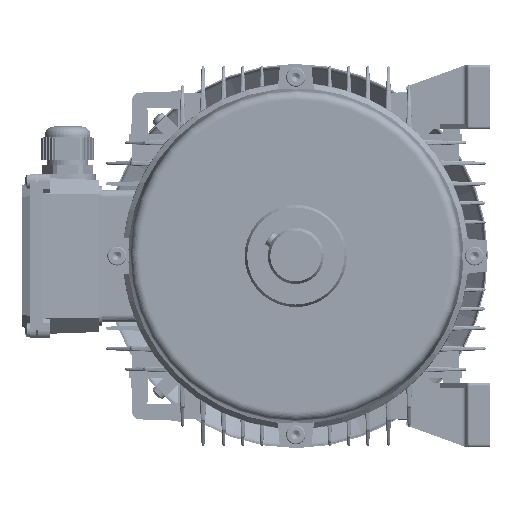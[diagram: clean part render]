
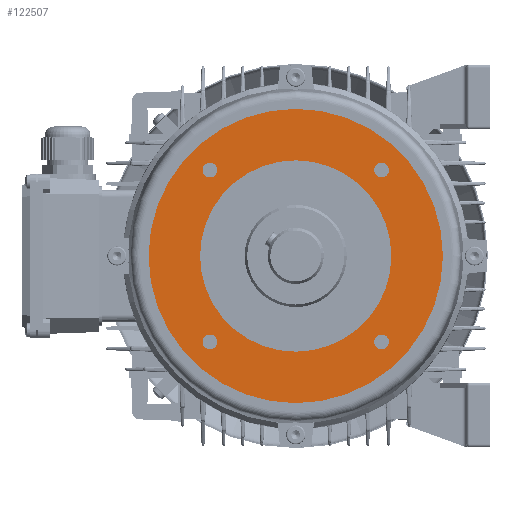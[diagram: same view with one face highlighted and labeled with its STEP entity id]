
A CAD part, left-side view. The second image highlights one B-rep face of the part: STEP entity #122507.
In plain terms, the highlighted planar face has unit normal (-1, 0, 0).
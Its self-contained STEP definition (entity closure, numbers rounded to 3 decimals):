
#1812 = FACE_BOUND ( 'NONE', #11258, .T. ) ;
#1910 = DIRECTION ( 'NONE',  ( 0., 0., -1. ) ) ;
#5064 = DIRECTION ( 'NONE',  ( 1., 0., 0. ) ) ;
#5218 = ORIENTED_EDGE ( 'NONE', *, *, #24922, .T. ) ;
#6644 = FACE_OUTER_BOUND ( 'NONE', #155947, .T. ) ;
#9139 = CARTESIAN_POINT ( 'NONE',  ( 3.5, 58.336, -58.336 ) ) ;
#10251 = ORIENTED_EDGE ( 'NONE', *, *, #99066, .T. ) ;
#10293 = DIRECTION ( 'NONE',  ( 0., 0., -1. ) ) ;
#11258 = EDGE_LOOP ( 'NONE', ( #60691, #46675 ) ) ;
#12870 = EDGE_CURVE ( 'NONE', #167520, #121306, #24170, .T. ) ;
#14092 = AXIS2_PLACEMENT_3D ( 'NONE', #123677, #81432, #62542 ) ;
#16080 = EDGE_CURVE ( 'NONE', #97850, #149481, #97177, .T. ) ;
#16223 = DIRECTION ( 'NONE',  ( 0., 0., -1. ) ) ;
#17737 = CARTESIAN_POINT ( 'NONE',  ( 3.5, -58.336, -53.336 ) ) ;
#20904 = DIRECTION ( 'NONE',  ( 1., 0., 0. ) ) ;
#22810 = VERTEX_POINT ( 'NONE', #142451 ) ;
#23322 = CARTESIAN_POINT ( 'NONE',  ( 3.5, 0., 0. ) ) ;
#23428 = AXIS2_PLACEMENT_3D ( 'NONE', #48113, #29215, #10293 ) ;
#24009 = CARTESIAN_POINT ( 'NONE',  ( 3.5, 58.336, 58.336 ) ) ;
#24170 = CIRCLE ( 'NONE', #42457, 65. ) ;
#24922 = EDGE_CURVE ( 'NONE', #155399, #42728, #33367, .T. ) ;
#25699 = DIRECTION ( 'NONE',  ( 0., 0., 1. ) ) ;
#28310 = CARTESIAN_POINT ( 'NONE',  ( 3.5, 58.336, 63.336 ) ) ;
#29215 = DIRECTION ( 'NONE',  ( 1., 0., 0. ) ) ;
#31867 = DIRECTION ( 'NONE',  ( 0., 0., -1. ) ) ;
#31952 = DIRECTION ( 'NONE',  ( 0., 0., 1. ) ) ;
#32727 = CIRCLE ( 'NONE', #14092, 5. ) ;
#33075 = EDGE_LOOP ( 'NONE', ( #10251, #54703 ) ) ;
#33367 = CIRCLE ( 'NONE', #87183, 5. ) ;
#35169 = DIRECTION ( 'NONE',  ( 1., 0., 0. ) ) ;
#36276 = ORIENTED_EDGE ( 'NONE', *, *, #145850, .T. ) ;
#36584 = CARTESIAN_POINT ( 'NONE',  ( 3.5, -58.336, 63.336 ) ) ;
#36988 = ORIENTED_EDGE ( 'NONE', *, *, #175364, .T. ) ;
#39785 = CARTESIAN_POINT ( 'NONE',  ( 3.5, -58.336, -58.336 ) ) ;
#40040 = CIRCLE ( 'NONE', #23428, 5. ) ;
#40218 = CIRCLE ( 'NONE', #110919, 65. ) ;
#41844 = DIRECTION ( 'NONE',  ( 0., 0., -1. ) ) ;
#42457 = AXIS2_PLACEMENT_3D ( 'NONE', #23322, #169879, #151005 ) ;
#42728 = VERTEX_POINT ( 'NONE', #28310 ) ;
#44553 = DIRECTION ( 'NONE',  ( -1., 0., 0. ) ) ;
#44596 = VERTEX_POINT ( 'NONE', #36584 ) ;
#44716 = AXIS2_PLACEMENT_3D ( 'NONE', #79629, #60737, #41844 ) ;
#46675 = ORIENTED_EDGE ( 'NONE', *, *, #12870, .F. ) ;
#47808 = EDGE_CURVE ( 'NONE', #121306, #167520, #40218, .T. ) ;
#48113 = CARTESIAN_POINT ( 'NONE',  ( 3.5, -58.336, 58.336 ) ) ;
#50714 = DIRECTION ( 'NONE',  ( 1., 0., 0. ) ) ;
#50815 = DIRECTION ( 'NONE',  ( -1., 0., 0. ) ) ;
#54001 = CARTESIAN_POINT ( 'NONE',  ( 3.5, 58.336, -58.336 ) ) ;
#54703 = ORIENTED_EDGE ( 'NONE', *, *, #76491, .T. ) ;
#55581 = AXIS2_PLACEMENT_3D ( 'NONE', #39785, #20904, #1910 ) ;
#60691 = ORIENTED_EDGE ( 'NONE', *, *, #47808, .F. ) ;
#60737 = DIRECTION ( 'NONE',  ( 1., 0., 0. ) ) ;
#62542 = DIRECTION ( 'NONE',  ( 0., 0., -1. ) ) ;
#63449 = CARTESIAN_POINT ( 'NONE',  ( 3.5, 0., 0. ) ) ;
#64844 = AXIS2_PLACEMENT_3D ( 'NONE', #54001, #35169, #16223 ) ;
#67483 = CIRCLE ( 'NONE', #177936, 100. ) ;
#69579 = CARTESIAN_POINT ( 'NONE',  ( 3.5, -58.336, -58.336 ) ) ;
#69666 = CARTESIAN_POINT ( 'NONE',  ( 3.5, 0., 0. ) ) ;
#70379 = CARTESIAN_POINT ( 'NONE',  ( 3.5, 0., -100. ) ) ;
#74285 = CARTESIAN_POINT ( 'NONE',  ( 3.5, 0., -65. ) ) ;
#76491 = EDGE_CURVE ( 'NONE', #44596, #178519, #32727, .T. ) ;
#79629 = CARTESIAN_POINT ( 'NONE',  ( 3.5, 58.336, 58.336 ) ) ;
#81432 = DIRECTION ( 'NONE',  ( 1., 0., 0. ) ) ;
#83739 = ORIENTED_EDGE ( 'NONE', *, *, #89832, .T. ) ;
#87183 = AXIS2_PLACEMENT_3D ( 'NONE', #24009, #5064, #170551 ) ;
#88162 = EDGE_LOOP ( 'NONE', ( #119007, #83739 ) ) ;
#89832 = EDGE_CURVE ( 'NONE', #103287, #22810, #143291, .T. ) ;
#92685 = DIRECTION ( 'NONE',  ( 0., 0., 1. ) ) ;
#93627 = CIRCLE ( 'NONE', #130062, 5. ) ;
#95015 = ORIENTED_EDGE ( 'NONE', *, *, #16080, .T. ) ;
#95129 = CIRCLE ( 'NONE', #113389, 5. ) ;
#95158 = EDGE_LOOP ( 'NONE', ( #36276, #95015 ) ) ;
#96634 = ORIENTED_EDGE ( 'NONE', *, *, #138043, .T. ) ;
#97177 = CIRCLE ( 'NONE', #64844, 5. ) ;
#97850 = VERTEX_POINT ( 'NONE', #112268 ) ;
#99066 = EDGE_CURVE ( 'NONE', #178519, #44596, #40040, .T. ) ;
#103287 = VERTEX_POINT ( 'NONE', #17737 ) ;
#106811 = ORIENTED_EDGE ( 'NONE', *, *, #122548, .T. ) ;
#107421 = DIRECTION ( 'NONE',  ( 0., 0., -1. ) ) ;
#108649 = VERTEX_POINT ( 'NONE', #70379 ) ;
#110919 = AXIS2_PLACEMENT_3D ( 'NONE', #63449, #44553, #25699 ) ;
#111585 = DIRECTION ( 'NONE',  ( -1., 0., 0. ) ) ;
#112268 = CARTESIAN_POINT ( 'NONE',  ( 3.5, 58.336, -53.336 ) ) ;
#113389 = AXIS2_PLACEMENT_3D ( 'NONE', #9139, #174661, #155771 ) ;
#116577 = CIRCLE ( 'NONE', #44716, 5. ) ;
#119007 = ORIENTED_EDGE ( 'NONE', *, *, #129623, .T. ) ;
#121306 = VERTEX_POINT ( 'NONE', #147982 ) ;
#122507 = ADVANCED_FACE ( 'NONE', ( #148184, #157720, #167223, #176767, #1812, #6644 ), #164064, .F. ) ;
#122548 = EDGE_CURVE ( 'NONE', #42728, #155399, #116577, .T. ) ;
#123677 = CARTESIAN_POINT ( 'NONE',  ( 3.5, -58.336, 58.336 ) ) ;
#126292 = DIRECTION ( 'NONE',  ( 1., 0., 0. ) ) ;
#129623 = EDGE_CURVE ( 'NONE', #22810, #103287, #93627, .T. ) ;
#130062 = AXIS2_PLACEMENT_3D ( 'NONE', #69579, #50714, #31867 ) ;
#137703 = VERTEX_POINT ( 'NONE', #148751 ) ;
#138043 = EDGE_CURVE ( 'NONE', #137703, #108649, #159541, .T. ) ;
#139602 = AXIS2_PLACEMENT_3D ( 'NONE', #69666, #50815, #31952 ) ;
#142451 = CARTESIAN_POINT ( 'NONE',  ( 3.5, -58.336, -63.336 ) ) ;
#143291 = CIRCLE ( 'NONE', #55581, 5. ) ;
#145163 = CARTESIAN_POINT ( 'NONE',  ( 3.5, 65., 0. ) ) ;
#145850 = EDGE_CURVE ( 'NONE', #149481, #97850, #95129, .T. ) ;
#147982 = CARTESIAN_POINT ( 'NONE',  ( 3.5, 0., 65. ) ) ;
#148184 = FACE_BOUND ( 'NONE', #33075, .T. ) ;
#148751 = CARTESIAN_POINT ( 'NONE',  ( 3.5, 0., 100. ) ) ;
#149339 = CARTESIAN_POINT ( 'NONE',  ( 3.5, 0., 0. ) ) ;
#149481 = VERTEX_POINT ( 'NONE', #181410 ) ;
#151005 = DIRECTION ( 'NONE',  ( 0., 0., 1. ) ) ;
#152238 = CARTESIAN_POINT ( 'NONE',  ( 3.5, -58.336, 53.336 ) ) ;
#155399 = VERTEX_POINT ( 'NONE', #174351 ) ;
#155771 = DIRECTION ( 'NONE',  ( 0., 0., -1. ) ) ;
#155947 = EDGE_LOOP ( 'NONE', ( #96634, #36988 ) ) ;
#157720 = FACE_BOUND ( 'NONE', #88162, .T. ) ;
#159541 = CIRCLE ( 'NONE', #139602, 100. ) ;
#162486 = AXIS2_PLACEMENT_3D ( 'NONE', #145163, #126292, #107421 ) ;
#164048 = EDGE_LOOP ( 'NONE', ( #5218, #106811 ) ) ;
#164064 = PLANE ( 'NONE',  #162486 ) ;
#167223 = FACE_BOUND ( 'NONE', #95158, .T. ) ;
#167520 = VERTEX_POINT ( 'NONE', #74285 ) ;
#169879 = DIRECTION ( 'NONE',  ( -1., 0., 0. ) ) ;
#170551 = DIRECTION ( 'NONE',  ( 0., 0., -1. ) ) ;
#174351 = CARTESIAN_POINT ( 'NONE',  ( 3.5, 58.336, 53.336 ) ) ;
#174661 = DIRECTION ( 'NONE',  ( 1., 0., 0. ) ) ;
#175364 = EDGE_CURVE ( 'NONE', #108649, #137703, #67483, .T. ) ;
#176767 = FACE_BOUND ( 'NONE', #164048, .T. ) ;
#177936 = AXIS2_PLACEMENT_3D ( 'NONE', #149339, #111585, #92685 ) ;
#178519 = VERTEX_POINT ( 'NONE', #152238 ) ;
#181410 = CARTESIAN_POINT ( 'NONE',  ( 3.5, 58.336, -63.336 ) ) ;
